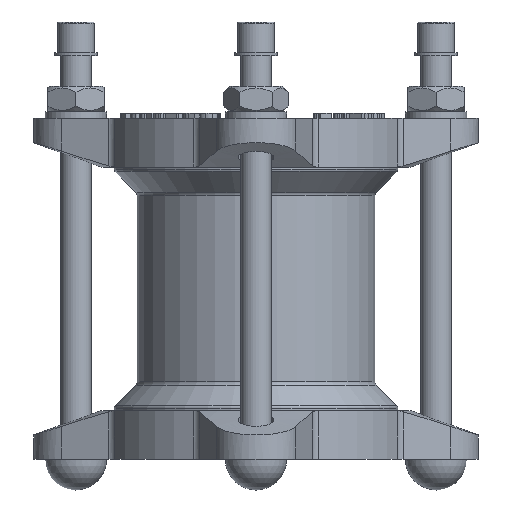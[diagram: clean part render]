
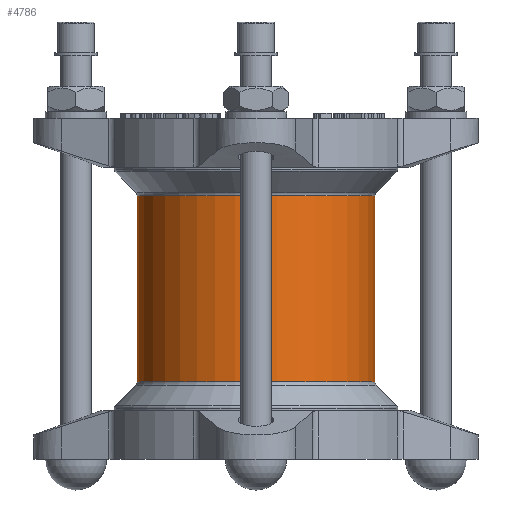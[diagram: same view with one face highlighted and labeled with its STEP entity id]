
A CAD part, front view. The second image highlights one B-rep face of the part: STEP entity #4786.
In plain terms, the highlighted cylindrical face has radius 46.5 mm (diameter 93 mm), a full revolution.
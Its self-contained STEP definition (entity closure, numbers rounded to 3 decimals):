
#4786=ADVANCED_FACE('',(#8923,#8925),#8927,.T.);
#8923=FACE_OUTER_BOUND('',#8924,.T.);
#8924=EDGE_LOOP('',(#13329));
#8925=FACE_OUTER_BOUND('',#8926,.T.);
#8926=EDGE_LOOP('',(#13330));
#8927=CYLINDRICAL_SURFACE('',#8928,46.5);
#8928=AXIS2_PLACEMENT_3D('',#8929,#8930,#8931);
#8929=CARTESIAN_POINT('',(0.,0.,37.172));
#8930=DIRECTION('',(0.,0.,-1.));
#8931=DIRECTION('',(0.,1.,0.));
#13329=ORIENTED_EDGE('',*,*,#15236,.T.);
#13330=ORIENTED_EDGE('',*,*,#15237,.F.);
#15236=EDGE_CURVE('',#17763,#17763,#17764,.T.);
#15237=EDGE_CURVE('',#17765,#17765,#17766,.T.);
#17763=VERTEX_POINT('',#25873);
#17764=CIRCLE('',#25874,46.5);
#17765=VERTEX_POINT('',#25878);
#17766=CIRCLE('',#25879,46.5);
#25873=CARTESIAN_POINT('',(0.,46.5,36.343));
#25874=AXIS2_PLACEMENT_3D('',#25875,#25876,#25877);
#25875=CARTESIAN_POINT('',(0.,0.,36.343));
#25876=DIRECTION('',(0.,0.,-1.));
#25877=DIRECTION('',(0.,1.,0.));
#25878=CARTESIAN_POINT('',(0.,46.5,-36.343));
#25879=AXIS2_PLACEMENT_3D('',#25880,#25881,#25882);
#25880=CARTESIAN_POINT('',(0.,0.,-36.343));
#25881=DIRECTION('',(0.,0.,-1.));
#25882=DIRECTION('',(0.,1.,0.));
